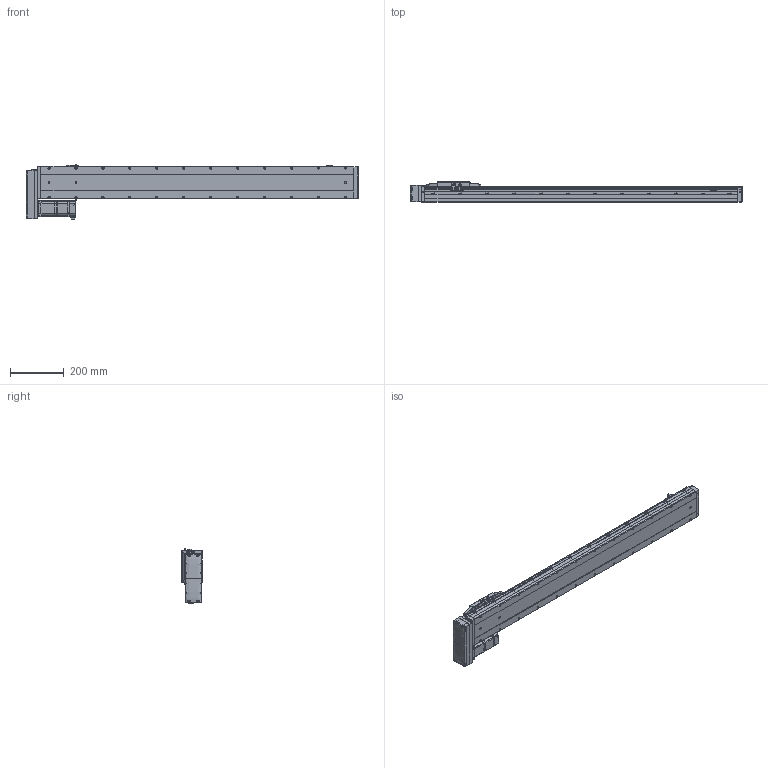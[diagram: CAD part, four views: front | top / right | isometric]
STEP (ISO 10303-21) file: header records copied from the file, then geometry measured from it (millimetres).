
FILE_DESCRIPTION (( 'STEP AP214' ), '1' );
FILE_NAME ('CTH12-L10-S950-BR-C40（简）.STEP', '2023-02-04T06:59:42', ( '' ), ( '' ), 'SwSTEP 2.0', 'SolidWorks 2018', '' );
FILE_SCHEMA (( 'AUTOMOTIVE_DESIGN' ));
Length unit declared in the file: millimetre
Products named in the file (24): 蚐郲; CTH12_body_3; CTH12; CTH12賑怢ㄗ潠ㄘ; CTH400W假蚾啣; CTH12耜蚾裔; M5蹟隊; CTH12賑怢郪磁; 内六角圆柱头螺钉M3-2; AC60_Valor predeterminado; 湮賑怢  裔赽-1(CTH12)賑怢; hex nuts, style 1-grades ab gb_GB_FASTENER_NUT_SNAB1 M3-N; CTH12侧装连接板（标准）简; CTH400W垫板（3个厚）; CTH12底座-L1161简（950行程）; CTH12-BL_body_4; CTH12-L10-S950-BR-C40（简）; 嫖萇羲壽郪磁2; 内六角圆柱头螺钉M3-1; 嫖萇羲壽郪磁1; CTH嫖萇羲壽假蚾啣; PM-Y45; 内六角圆柱头螺钉M3; CTH12覜茼え
Assembly tree (44 placements, depth 4):
  CTH12-L10-S950-BR-C40（简）
    CTH12底座-L1161简（950行程）
    蚐郲  x2
    CTH12_body_3
    CTH12-BL_body_4
    CTH12侧装连接板（标准）简
    CTH12耜蚾裔
    CTH12賑怢郪磁
      CTH12
        湮賑怢  裔赽-1(CTH12)賑怢
        CTH12賑怢ㄗ潠ㄘ
    CTH12覜茼え
    嫖萇羲壽郪磁1  x2
      CTH嫖萇羲壽假蚾啣
      PM-Y45
      内六角圆柱头螺钉M3-2
      内六角圆柱头螺钉M3-1
      hex nuts, style 1-grades ab gb_GB_FASTENER_NUT_SNAB1 M3-N
    嫖萇羲壽郪磁2
      CTH嫖萇羲壽假蚾啣
      PM-Y45
      内六角圆柱头螺钉M3-1  x2
      内六角圆柱头螺钉M3-2  x2
      hex nuts, style 1-grades ab gb_GB_FASTENER_NUT_SNAB1 M3-N  x2
    CTH400W垫板（3个厚）
    AC60_Valor predeterminado
    内六角圆柱头螺钉M3  x6
    M5蹟隊  x4
    CTH400W假蚾啣
Bounding box: 1231.5 x 76 x 201.06 mm (x, y, z)
Volume: 1160331.1 mm3; surface area: 749495.2 mm2
Topology: 46 solids, 48 shells, 2936 faces, 7487 edges, 4761 vertices
Faces by surface type: plane 1583, cylinder 816, cone 379, bspline 106, torus 52
Entity records: 86005 total; most frequent: CARTESIAN_POINT 23838, ORIENTED_EDGE 12154, DIRECTION 11832, EDGE_CURVE 6077, AXIS2_PLACEMENT_3D 4016, VERTEX_POINT 3873, VECTOR 3800, LINE 3800
